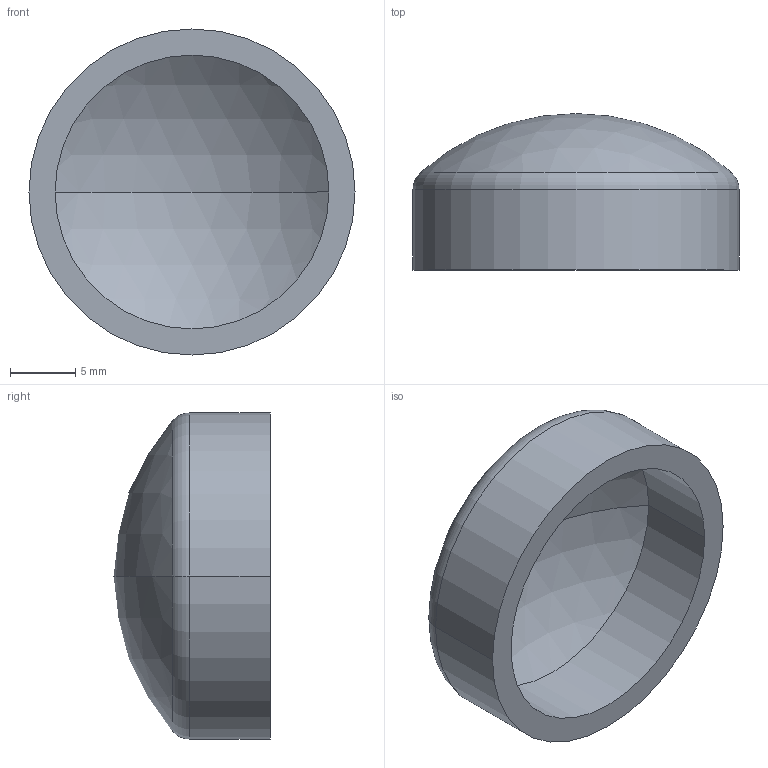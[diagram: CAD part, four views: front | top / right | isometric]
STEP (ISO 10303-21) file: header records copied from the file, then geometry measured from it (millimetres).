
FILE_DESCRIPTION (( 'STEP AP203' ), '1' );
FILE_NAME ('3D_R365_25x2_173373170.STEP', '2024-07-16T07:02:05', ( '' ), ( '' ), 'SwSTEP 2.0', 'SolidWorks 2024', '' );
FILE_SCHEMA (( 'CONFIG_CONTROL_DESIGN' ));
Length unit declared in the file: millimetre
Products named in the file (1): 3D_R365_25x2_173373170
Bounding box: 25 x 12 x 25 mm (x, y, z)
Volume: 1897.5 mm3; surface area: 2049.6 mm2
Topology: 1 solids, 1 shells, 11 faces, 20 edges, 12 vertices
Faces by surface type: sphere 4, cylinder 4, torus 2, plane 1
Entity records: 355 total; most frequent: DIRECTION 60, CARTESIAN_POINT 44, ORIENTED_EDGE 40, AXIS2_PLACEMENT_3D 28, EDGE_CURVE 20, CIRCLE 16, VERTEX_POINT 12, EDGE_LOOP 12
